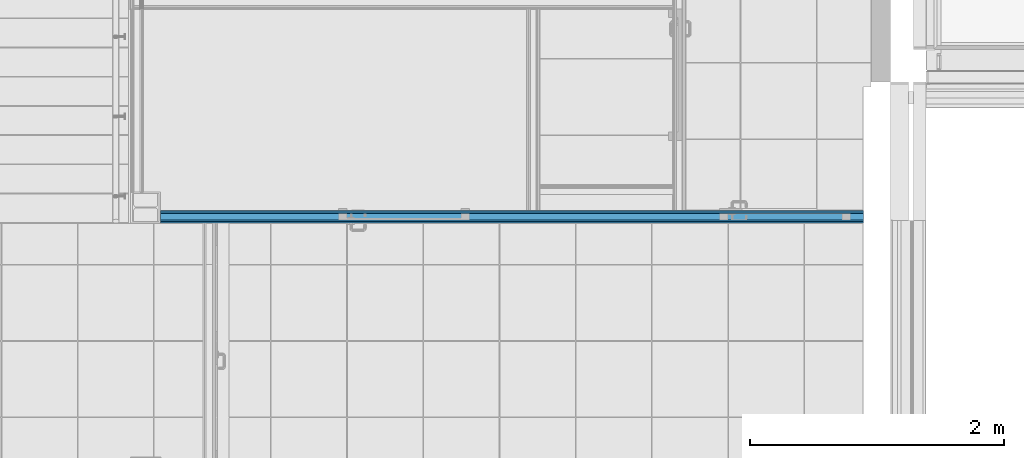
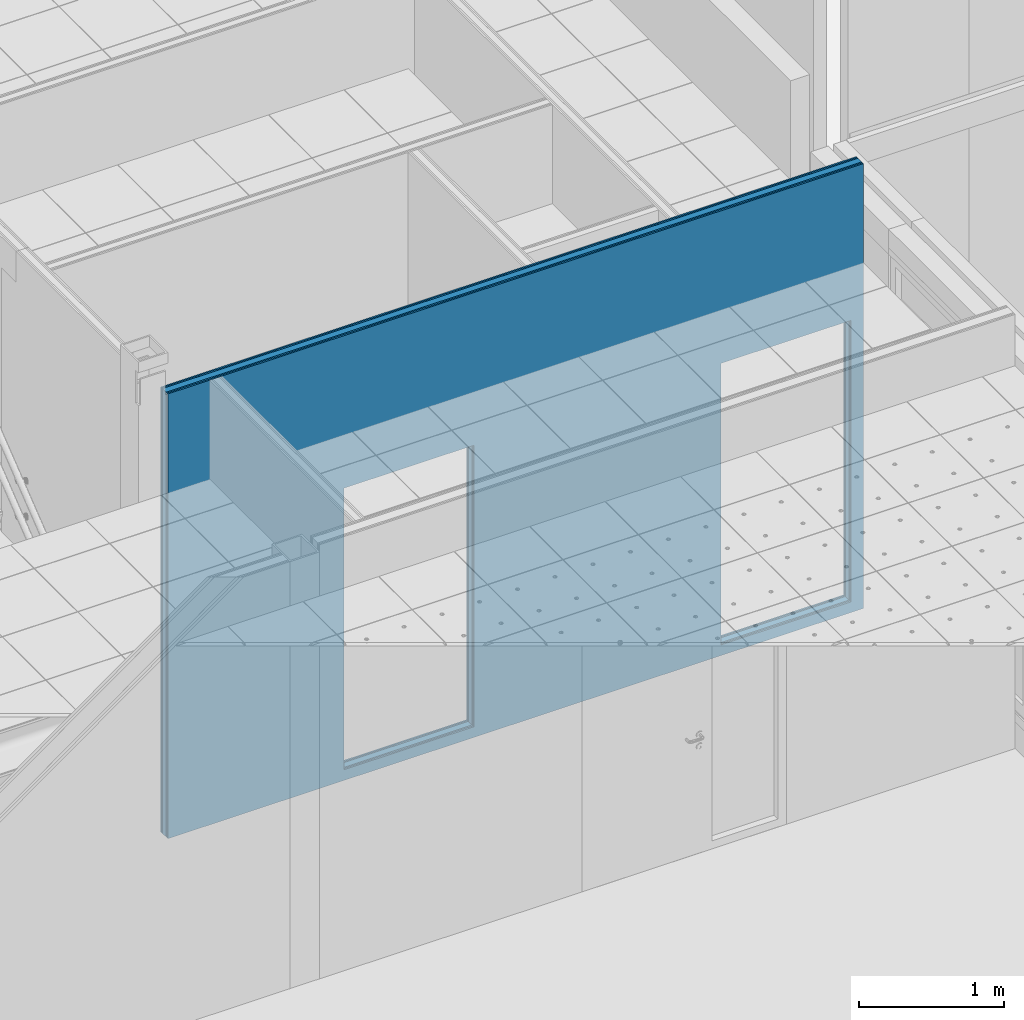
# One storey, part 53 of 338: 5 building element parts, 2 openings, 1 element without a shape of its own.
"""IFC2X3 building model written with IfcOpenShell, lengths in millimetres."""

from ifc_helpers import new_model, entity, si_unit, converted_unit, derived_unit, money_unit, direction, frame, origin_with_axes, place, context, subcontext, project, spatial, faceted_brep, material, type_object, element, aggregate, save


model = new_model("IFC2X3")

# Units and contexts
model_context = context("Model", 3, precision=0.01, world=origin_with_axes(), true_north=direction((0.0, 1.0)))
plan_context = context("Plan", 3, precision=0.01, world=origin_with_axes(), true_north=direction((0.0, 1.0)))
body_context = subcontext(model_context, "Body", "Model", "MODEL_VIEW")
ifc_project = project(units=[si_unit("LENGTHUNIT", "METRE", prefix="MILLI"), si_unit("AREAUNIT", "SQUARE_METRE"), si_unit("VOLUMEUNIT", "CUBIC_METRE"), converted_unit("PLANEANGLEUNIT", "DEGREE", entity("IfcPlaneAngleMeasure", 0.0174532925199), si_unit("PLANEANGLEUNIT", "RADIAN"), dimensions=[0, 0, 0, 0, 0, 0, 0]), money_unit("EUR"), converted_unit("TIMEUNIT", "Year", entity("IfcTimeMeasure", 31556926.0), si_unit("TIMEUNIT", "SECOND"), dimensions=[0, 0, 1, 0, 0, 0, 0]), si_unit("MASSUNIT", "GRAM", prefix="KILO"), si_unit("THERMODYNAMICTEMPERATUREUNIT", "DEGREE_CELSIUS"), si_unit("LUMINOUSINTENSITYUNIT", "LUMEN"), si_unit("ENERGYUNIT", "JOULE", prefix="MEGA"), derived_unit("THERMALCONDUCTANCEUNIT", [(si_unit("POWERUNIT", "WATT"), 1), (si_unit("LENGTHUNIT", "METRE"), -1), (si_unit("THERMODYNAMICTEMPERATUREUNIT", "KELVIN"), -1)]), derived_unit("SPECIFICHEATCAPACITYUNIT", [(si_unit("ENERGYUNIT", "JOULE"), 1), (si_unit("MASSUNIT", "GRAM", prefix="KILO"), -1), (si_unit("THERMODYNAMICTEMPERATUREUNIT", "KELVIN"), -1)]), derived_unit("MASSDENSITYUNIT", [(si_unit("MASSUNIT", "GRAM", prefix="KILO"), 1), (si_unit("VOLUMEUNIT", "CUBIC_METRE"), -1)])], contexts=[model_context, plan_context])

# Site, building, storey
site_placement = place(None, origin_with_axes())
site = spatial("IfcSite", under=ifc_project, at=site_placement, Name="Fortuinstraat Woensdrecht", CompositionType="ELEMENT")
building_placement = place(site_placement, origin_with_axes())
building = spatial("IfcBuilding", under=site, at=building_placement, Name="IKC Fortuna", CompositionType="ELEMENT")
storey_placement = place(building_placement, origin_with_axes())
storey = spatial("IfcBuildingStorey", under=building, at=storey_placement, Name="00 begane grond", CompositionType="ELEMENT", Elevation=0.0)

# Wall, openings, building element parts
wall_type = type_object("IfcWallType", Name="MS100 2.50.2A 100", PredefinedType="NOTDEFINED")
wall_placement = place(storey_placement, frame((29086.9349765, 19799.7966283, -90.0), z_axis=(0.0, 0.0, 1.0), x_axis=(1.0, 0.0, 0.0)))
wall = element("IfcWall", 1, at=wall_placement, inside=storey, type_object=wall_type, Name="22_Wand_Binnenwand")
opening_1_placement = place(wall_placement, frame((1916.19763885, 0.0, 90.0), z_axis=(0.0, 0.0, 1.0), x_axis=(1.0, 0.0, 0.0)))
element("IfcOpeningElement", 2, at=opening_1_placement, cuts=wall, Name="32_Deur_h.01a", context=body_context, shape_type="Brep", body=[
    faceted_brep([(517.0, -200.0, 2367.0), (517.0, -200.0, 0.0), (517.0, 100.0, 0.0), (517.0, 100.0, 2367.0), (-517.0, -200.0, 2367.0), (-517.0, -200.0, 0.0), (-517.0, 100.0, 0.0), (-517.0, 100.0, 2367.0)], [[[0, 1, 2, 3]], [[0, 4, 5, 1]], [[1, 5, 6, 2]], [[3, 2, 6, 7]], [[4, 0, 3, 7]], [[5, 4, 7, 6]]]),
])
opening_2_placement = place(wall_placement, frame((4915.50046335, 0.0, 90.0), z_axis=(0.0, 0.0, 1.0), x_axis=(1.0, 0.0, 0.0)))
element("IfcOpeningElement", 3, at=opening_2_placement, cuts=wall, Name="32_Deur_h.01c", context=body_context, shape_type="Brep", body=[
    faceted_brep([(517.0, 100.0, 0.0), (517.0, 100.0, 2367.0), (517.0, -200.0, 2367.0), (517.0, -200.0, 0.0), (-517.0, 100.0, 0.0), (-517.0, 100.0, 2367.0), (-517.0, -200.0, 2367.0), (-517.0, -200.0, 0.0)], [[[0, 1, 2, 3]], [[0, 4, 5, 1]], [[1, 5, 6, 2]], [[3, 2, 6, 7]], [[4, 0, 3, 7]], [[5, 4, 7, 6]]]),
])
ifc_material_1 = material(Name="Gipsplaat")
building_element_part_1_placement = place(wall_placement, origin_with_axes())
building_element_part_1 = element("IfcBuildingElementPart", 4, at=building_element_part_1_placement, material=ifc_material_1, Name="Gipsplaat", context=body_context, shape_type="Brep", body=[
    faceted_brep([(0.0, 87.5, 3740.0), (0.0, 87.5, 0.0), (5532.49208055, 87.5, 0.0), (5532.49208055, 87.5, 3740.0), (1399.19763885, 87.5, 2457.0), (2433.19763885, 87.5, 2457.0), (2433.19763885, 87.5, 90.0), (1399.19763885, 87.5, 90.0), (4398.50046335, 87.5, 90.0), (4398.50046335, 87.5, 2457.0), (5432.50046335, 87.5, 2457.0), (5432.50046335, 87.5, 90.0), (0.0, 100.0, 0.0), (0.0, 100.0, 3740.0), (5532.49208055, 100.0, 0.0), (5532.49208055, 100.0, 3740.0), (2433.19763885, 100.0, 2457.0), (1399.19763885, 100.0, 2457.0), (2433.19763885, 100.0, 90.0), (1399.19763885, 100.0, 90.0), (4398.50046335, 100.0, 90.0), (4398.50046335, 100.0, 2457.0), (5432.50046335, 100.0, 2457.0), (5432.50046335, 100.0, 90.0)], [[[0, 1, 2, 3], [4, 5, 6, 7], [8, 9, 10, 11]], [[12, 1, 0, 13]], [[1, 12, 14, 2]], [[14, 15, 3, 2]], [[13, 0, 3, 15]], [[16, 5, 4, 17]], [[18, 6, 5, 16]], [[19, 7, 6, 18]], [[17, 4, 7, 19]], [[20, 21, 9, 8]], [[21, 22, 10, 9]], [[22, 23, 11, 10]], [[23, 20, 8, 11]], [[12, 13, 15, 14], [18, 16, 17, 19], [20, 23, 22, 21]]]),
])
building_element_part_2_placement = place(wall_placement, origin_with_axes())
building_element_part_2 = element("IfcBuildingElementPart", 5, at=building_element_part_2_placement, material=ifc_material_1, Name="Gipsplaat", context=body_context, shape_type="Brep", body=[
    faceted_brep([(0.0, 75.0, 3740.0), (0.0, 75.0, 0.0), (5532.49208055, 75.0, 0.0), (5532.49208055, 75.0, 3740.0), (1399.19763885, 75.0, 2457.0), (2433.19763885, 75.0, 2457.0), (2433.19763885, 75.0, 90.0), (1399.19763885, 75.0, 90.0), (4398.50046335, 75.0, 90.0), (4398.50046335, 75.0, 2457.0), (5432.50046335, 75.0, 2457.0), (5432.50046335, 75.0, 90.0), (0.0, 87.5, 0.0), (0.0, 87.5, 3740.0), (5532.49208055, 87.5, 0.0), (5532.49208055, 87.5, 3740.0), (2433.19763885, 87.5, 2457.0), (1399.19763885, 87.5, 2457.0), (2433.19763885, 87.5, 90.0), (1399.19763885, 87.5, 90.0), (4398.50046335, 87.5, 90.0), (4398.50046335, 87.5, 2457.0), (5432.50046335, 87.5, 2457.0), (5432.50046335, 87.5, 90.0)], [[[0, 1, 2, 3], [4, 5, 6, 7], [8, 9, 10, 11]], [[12, 1, 0, 13]], [[1, 12, 14, 2]], [[14, 15, 3, 2]], [[13, 0, 3, 15]], [[16, 5, 4, 17]], [[18, 6, 5, 16]], [[19, 7, 6, 18]], [[17, 4, 7, 19]], [[20, 21, 9, 8]], [[21, 22, 10, 9]], [[22, 23, 11, 10]], [[23, 20, 8, 11]], [[12, 13, 15, 14], [18, 16, 17, 19], [20, 23, 22, 21]]]),
])
ifc_material_2 = material(Name="Isolatie - Steenwol LSW")
building_element_part_3_placement = place(wall_placement, origin_with_axes())
building_element_part_3 = element("IfcBuildingElementPart", 6, at=building_element_part_3_placement, material=ifc_material_2, Name="Isolatie - Steenwol LSW", context=body_context, shape_type="Brep", body=[
    faceted_brep([(0.0, 25.0, 3740.0), (0.0, 25.0, 0.0), (5532.49208055, 25.0, 0.0), (5532.49208055, 25.0, 3740.0), (1399.19763885, 25.0, 2457.0), (2433.19763885, 25.0, 2457.0), (2433.19763885, 25.0, 90.0), (1399.19763885, 25.0, 90.0), (4398.50046335, 25.0, 90.0), (4398.50046335, 25.0, 2457.0), (5432.50046335, 25.0, 2457.0), (5432.50046335, 25.0, 90.0), (0.0, 75.0, 0.0), (0.0, 75.0, 3740.0), (5532.49208055, 75.0, 0.0), (5532.49208055, 75.0, 3740.0), (2433.19763885, 75.0, 2457.0), (1399.19763885, 75.0, 2457.0), (2433.19763885, 75.0, 90.0), (1399.19763885, 75.0, 90.0), (4398.50046335, 75.0, 90.0), (4398.50046335, 75.0, 2457.0), (5432.50046335, 75.0, 2457.0), (5432.50046335, 75.0, 90.0)], [[[0, 1, 2, 3], [4, 5, 6, 7], [8, 9, 10, 11]], [[12, 1, 0, 13]], [[1, 12, 14, 2]], [[14, 15, 3, 2]], [[13, 0, 3, 15]], [[16, 5, 4, 17]], [[18, 6, 5, 16]], [[19, 7, 6, 18]], [[17, 4, 7, 19]], [[20, 21, 9, 8]], [[21, 22, 10, 9]], [[22, 23, 11, 10]], [[23, 20, 8, 11]], [[12, 13, 15, 14], [18, 16, 17, 19], [20, 23, 22, 21]]]),
])
building_element_part_4_placement = place(wall_placement, origin_with_axes())
building_element_part_4 = element("IfcBuildingElementPart", 7, at=building_element_part_4_placement, material=ifc_material_1, Name="Gipsplaat", context=body_context, shape_type="Brep", body=[
    faceted_brep([(0.0, 12.5, 3740.0), (0.0, 12.5, 0.0), (5532.49208055, 12.5, 0.0), (5532.49208055, 12.5, 3740.0), (1399.19763885, 12.5, 2457.0), (2433.19763885, 12.5, 2457.0), (2433.19763885, 12.5, 90.0), (1399.19763885, 12.5, 90.0), (4398.50046335, 12.5, 90.0), (4398.50046335, 12.5, 2457.0), (5432.50046335, 12.5, 2457.0), (5432.50046335, 12.5, 90.0), (0.0, 25.0, 0.0), (0.0, 25.0, 3740.0), (5532.49208055, 25.0, 0.0), (5532.49208055, 25.0, 3740.0), (2433.19763885, 25.0, 2457.0), (1399.19763885, 25.0, 2457.0), (2433.19763885, 25.0, 90.0), (1399.19763885, 25.0, 90.0), (4398.50046335, 25.0, 90.0), (4398.50046335, 25.0, 2457.0), (5432.50046335, 25.0, 2457.0), (5432.50046335, 25.0, 90.0)], [[[0, 1, 2, 3], [4, 5, 6, 7], [8, 9, 10, 11]], [[12, 1, 0, 13]], [[1, 12, 14, 2]], [[14, 15, 3, 2]], [[13, 0, 3, 15]], [[16, 5, 4, 17]], [[18, 6, 5, 16]], [[19, 7, 6, 18]], [[17, 4, 7, 19]], [[20, 21, 9, 8]], [[21, 22, 10, 9]], [[22, 23, 11, 10]], [[23, 20, 8, 11]], [[12, 13, 15, 14], [18, 16, 17, 19], [20, 23, 22, 21]]]),
])
building_element_part_5_placement = place(wall_placement, origin_with_axes())
building_element_part_5 = element("IfcBuildingElementPart", 8, at=building_element_part_5_placement, material=ifc_material_1, Name="Gipsplaat", context=body_context, shape_type="Brep", body=[
    faceted_brep([(0.0, 0.0, 3740.0), (0.0, 0.0, 0.0), (5532.49208055, 0.0, 0.0), (5532.49208055, 0.0, 3740.0), (1399.19763885, 0.0, 2457.0), (2433.19763885, 0.0, 2457.0), (2433.19763885, 0.0, 90.0), (1399.19763885, 0.0, 90.0), (4398.50046335, 0.0, 90.0), (4398.50046335, 0.0, 2457.0), (5432.50046335, 0.0, 2457.0), (5432.50046335, 0.0, 90.0), (0.0, 12.5, 0.0), (0.0, 12.5, 3740.0), (5532.49208055, 12.5, 0.0), (5532.49208055, 12.5, 3740.0), (2433.19763885, 12.5, 2457.0), (1399.19763885, 12.5, 2457.0), (2433.19763885, 12.5, 90.0), (1399.19763885, 12.5, 90.0), (4398.50046335, 12.5, 90.0), (4398.50046335, 12.5, 2457.0), (5432.50046335, 12.5, 2457.0), (5432.50046335, 12.5, 90.0)], [[[0, 1, 2, 3], [4, 5, 6, 7], [8, 9, 10, 11]], [[12, 1, 0, 13]], [[1, 12, 14, 2]], [[14, 15, 3, 2]], [[13, 0, 3, 15]], [[16, 5, 4, 17]], [[18, 6, 5, 16]], [[19, 7, 6, 18]], [[17, 4, 7, 19]], [[20, 21, 9, 8]], [[21, 22, 10, 9]], [[22, 23, 11, 10]], [[23, 20, 8, 11]], [[12, 13, 15, 14], [18, 16, 17, 19], [20, 23, 22, 21]]]),
])
aggregate(wall, [building_element_part_1, building_element_part_2, building_element_part_3, building_element_part_4, building_element_part_5])

save(model, "model.ifc")
